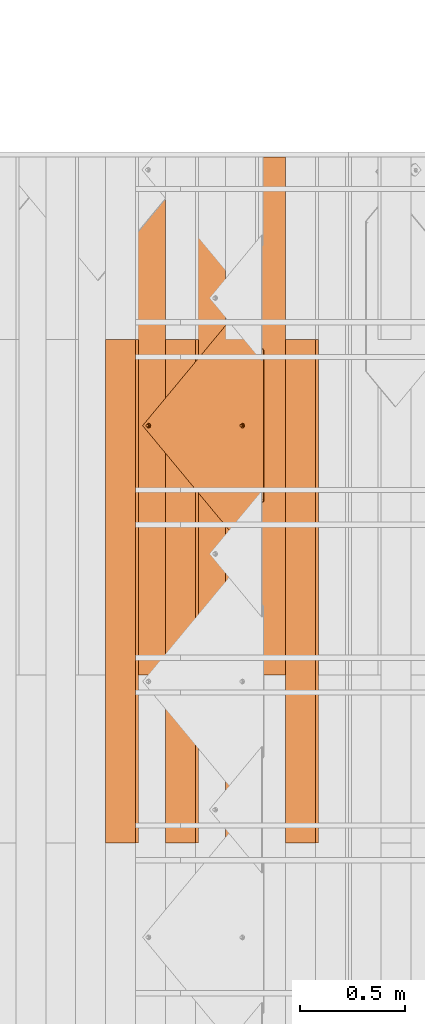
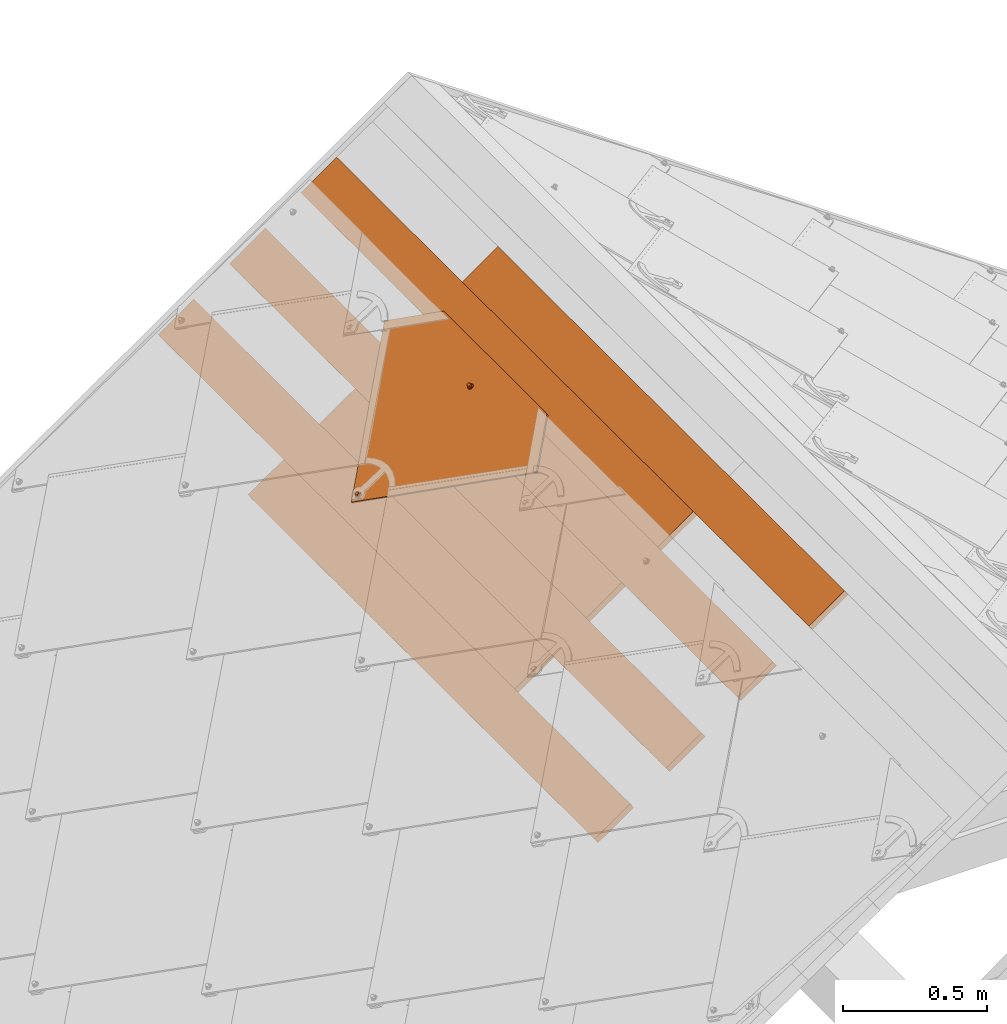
# One storey, part 64 of 133: 8 proxies, 1 element without a shape of its own.
"""IFC2X3 building model written with IfcOpenShell, lengths in millimetres."""

from ifc_helpers import new_model, entity, si_unit, converted_unit, derived_unit, direction, frame, frame_2d, origin, place, context, subcontext, project, spatial, rectangle, extrude, faceted_brep, source, transform, mapped, material, material_list, type_object, type_shapes, element, aggregate, save


model = new_model("IFC2X3")

# Units and contexts
model_context = context("Model", 3, precision=0.01, world=origin(), true_north=direction((6.12303176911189e-17, 1.0)))
body_context = subcontext(model_context, "Body", "Model", "MODEL_VIEW")
ifc_project = project(units=[si_unit("LENGTHUNIT", "METRE", prefix="MILLI"), si_unit("AREAUNIT", "SQUARE_METRE"), si_unit("VOLUMEUNIT", "CUBIC_METRE"), converted_unit("PLANEANGLEUNIT", "DEGREE", entity("IfcRatioMeasure", 0.0174532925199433), si_unit("PLANEANGLEUNIT", "RADIAN"), dimensions=[0, 0, 0, 0, 0, 0, 0]), si_unit("MASSUNIT", "GRAM", prefix="KILO"), derived_unit("MASSDENSITYUNIT", [(si_unit("MASSUNIT", "GRAM", prefix="KILO"), 1), (si_unit("LENGTHUNIT", "METRE"), -3)]), si_unit("TIMEUNIT", "SECOND"), si_unit("FREQUENCYUNIT", "HERTZ"), si_unit("THERMODYNAMICTEMPERATUREUNIT", "DEGREE_CELSIUS"), derived_unit("THERMALTRANSMITTANCEUNIT", [(si_unit("MASSUNIT", "GRAM", prefix="KILO"), 1), (si_unit("THERMODYNAMICTEMPERATUREUNIT", "KELVIN"), -1), (si_unit("TIMEUNIT", "SECOND"), -3)]), derived_unit("VOLUMETRICFLOWRATEUNIT", [(si_unit("LENGTHUNIT", "METRE"), 3), (si_unit("TIMEUNIT", "SECOND"), -1)]), si_unit("ELECTRICCURRENTUNIT", "AMPERE"), si_unit("ELECTRICVOLTAGEUNIT", "VOLT"), si_unit("POWERUNIT", "WATT"), si_unit("FORCEUNIT", "NEWTON", prefix="KILO"), si_unit("ILLUMINANCEUNIT", "LUX"), si_unit("LUMINOUSFLUXUNIT", "LUMEN"), si_unit("LUMINOUSINTENSITYUNIT", "CANDELA"), derived_unit("USERDEFINED", [(si_unit("MASSUNIT", "GRAM", prefix="KILO"), -1), (si_unit("LENGTHUNIT", "METRE"), -2), (si_unit("TIMEUNIT", "SECOND"), 3), (si_unit("LUMINOUSFLUXUNIT", "LUMEN"), 1)]), derived_unit("LINEARVELOCITYUNIT", [(si_unit("LENGTHUNIT", "METRE"), 1), (si_unit("TIMEUNIT", "SECOND"), -1)]), si_unit("PRESSUREUNIT", "PASCAL"), derived_unit("USERDEFINED", [(si_unit("LENGTHUNIT", "METRE"), -2), (si_unit("MASSUNIT", "GRAM", prefix="KILO"), 1), (si_unit("TIMEUNIT", "SECOND"), -2)])], contexts=[model_context])

# Site, building, storey
site_placement = place(None, origin())
site = spatial("IfcSite", under=ifc_project, at=site_placement, Name="Default", CompositionType="ELEMENT")
building_placement = place(site_placement, origin())
building = spatial("IfcBuilding", under=site, at=building_placement, CompositionType="ELEMENT")
storey_placement = place(building_placement, origin())
storey = spatial("IfcBuildingStorey", under=building, at=storey_placement, Name="Level 1", CompositionType="ELEMENT", Elevation=0.0)

# Assembly, proxies
assembly_placement = place(storey_placement, origin())
assembly = element("IfcElementAssembly", 1, at=assembly_placement, inside=storey, Name="Structural Framing Assembly:Roof Construction Assembly", ObjectType="Structural Framing Assembly:Roof Construction Assembly", AssemblyPlace="NOTDEFINED", PredefinedType="USERDEFINED")
ifc_material_1 = material(Name="Wood - Generic - Wood For Showcase")
building_element_proxy_type_1 = type_object("IfcBuildingElementProxyType", Name="Structural Framing 15", PredefinedType="NOTDEFINED", material=ifc_material_1)
shared_shape_1 = source(origin(), body_context, "Body", "SweptSolid", [
    extrude(rectangle(XDim=24.9999999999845, YDim=174.344679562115, at=frame_2d((-1.77635683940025e-13, -4.54747350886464e-13), x_axis=(0.0, 1.0))), frame((1128.20180147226, 1525.55080214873, 2760.23940055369), z_axis=(0.0, 1.0, 0.0), x_axis=(-0.819152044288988, 0.0, -0.573576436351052)), (0.0, 0.0, 1.0), 2399.99999999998),
])
type_shapes(building_element_proxy_type_1, [shared_shape_1])
proxy_1_placement = place(assembly_placement, frame((-142.814800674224, -870.0, -100.0)))
proxy_1 = element("IfcBuildingElementProxy", 2, at=proxy_1_placement, type_object=building_element_proxy_type_1, material=ifc_material_1, Name="Structural Framing 20:Structural Framing 15", ObjectType="Structural Framing 20:Structural Framing 15", context=body_context, shape_type="MappedRepresentation", body=[
    mapped(shared_shape_1, transform((0.0, 0.0, 0.0), scale=1.0)),
])
building_element_proxy_type_2 = type_object("IfcBuildingElementProxyType", Name="Structural Framing 15", PredefinedType="NOTDEFINED", material=ifc_material_1)
shared_shape_2 = source(origin(), body_context, "Body", "SweptSolid", [
    extrude(rectangle(XDim=24.9999999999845, YDim=174.344679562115, at=frame_2d((-1.77635683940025e-13, -4.54747350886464e-13), x_axis=(0.0, 1.0))), frame((1128.20180147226, 1455.55080214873, 2760.23940055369), z_axis=(0.0, 1.0, 0.0), x_axis=(-0.819152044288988, 0.0, -0.573576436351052)), (0.0, 0.0, 1.0), 2469.99999999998),
])
type_shapes(building_element_proxy_type_2, [shared_shape_2])
proxy_2_placement = place(assembly_placement, frame((-285.629601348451, 0.0, -200.0)))
proxy_2 = element("IfcBuildingElementProxy", 3, at=proxy_2_placement, type_object=building_element_proxy_type_2, material=ifc_material_1, Name="Structural Framing 25:Structural Framing 15", ObjectType="Structural Framing 25:Structural Framing 15", context=body_context, shape_type="MappedRepresentation", body=[
    mapped(shared_shape_2, transform((0.0, 0.0, 0.0), scale=1.0)),
])
building_element_proxy_type_3 = type_object("IfcBuildingElementProxyType", Name="Structural Framing 15", PredefinedType="NOTDEFINED", material=ifc_material_1)
shared_shape_3 = source(origin(), body_context, "Body", "SweptSolid", [
    extrude(rectangle(XDim=24.9999999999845, YDim=174.344679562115, at=frame_2d((-1.77635683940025e-13, -4.54747350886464e-13), x_axis=(0.0, 1.0))), frame((1128.20180147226, 1525.55080214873, 2760.23940055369), z_axis=(0.0, 1.0, 0.0), x_axis=(-0.819152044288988, 0.0, -0.573576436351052)), (0.0, 0.0, 1.0), 2399.99999999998),
])
type_shapes(building_element_proxy_type_3, [shared_shape_3])
proxy_3_placement = place(assembly_placement, frame((-428.444402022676, -870.0, -300.0)))
proxy_3 = element("IfcBuildingElementProxy", 4, at=proxy_3_placement, type_object=building_element_proxy_type_3, material=ifc_material_1, Name="Structural Framing 30:Structural Framing 15", ObjectType="Structural Framing 30:Structural Framing 15", context=body_context, shape_type="MappedRepresentation", body=[
    mapped(shared_shape_3, transform((0.0, 0.0, 0.0), scale=1.0)),
])
building_element_proxy_type_4 = type_object("IfcBuildingElementProxyType", Name="Structural Framing 15", PredefinedType="NOTDEFINED", material=ifc_material_1)
shared_shape_4 = source(origin(), body_context, "Body", "SweptSolid", [
    extrude(rectangle(XDim=24.9999999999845, YDim=174.344679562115, at=frame_2d((-1.77635683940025e-13, -4.54747350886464e-13), x_axis=(0.0, 1.0))), frame((1128.20180147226, 1455.55080214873, 2760.23940055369), z_axis=(0.0, 1.0, 0.0), x_axis=(-0.819152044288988, 0.0, -0.573576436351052)), (0.0, 0.0, 1.0), 2469.99999999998),
])
type_shapes(building_element_proxy_type_4, [shared_shape_4])
proxy_4_placement = place(assembly_placement, frame((-571.259202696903, 0.0, -400.0)))
proxy_4 = element("IfcBuildingElementProxy", 5, at=proxy_4_placement, type_object=building_element_proxy_type_4, material=ifc_material_1, Name="Structural Framing 35:Structural Framing 15", ObjectType="Structural Framing 35:Structural Framing 15", context=body_context, shape_type="MappedRepresentation", body=[
    mapped(shared_shape_4, transform((0.0, 0.0, 0.0), scale=1.0)),
])
building_element_proxy_type_5 = type_object("IfcBuildingElementProxyType", Name="Structural Framing 15", PredefinedType="NOTDEFINED", material=ifc_material_1)
shared_shape_5 = source(origin(), body_context, "Body", "SweptSolid", [
    extrude(rectangle(XDim=24.9999999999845, YDim=174.344679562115, at=frame_2d((-1.77635683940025e-13, -4.54747350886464e-13), x_axis=(0.0, 1.0))), frame((1128.20180147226, 1525.55080214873, 2760.23940055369), z_axis=(0.0, 1.0, 0.0), x_axis=(-0.819152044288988, 0.0, -0.573576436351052)), (0.0, 0.0, 1.0), 2399.99999999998),
])
type_shapes(building_element_proxy_type_5, [shared_shape_5])
proxy_5_placement = place(assembly_placement, frame((-714.074003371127, -870.0, -500.0)))
proxy_5 = element("IfcBuildingElementProxy", 6, at=proxy_5_placement, type_object=building_element_proxy_type_5, material=ifc_material_1, Name="Structural Framing 40:Structural Framing 15", ObjectType="Structural Framing 40:Structural Framing 15", context=body_context, shape_type="MappedRepresentation", body=[
    mapped(shared_shape_5, transform((0.0, 0.0, 0.0), scale=1.0)),
])
building_element_proxy_type_6 = type_object("IfcBuildingElementProxyType", Name="Structural Framing 15", PredefinedType="NOTDEFINED", material=ifc_material_1)
shared_shape_6 = source(origin(), body_context, "Body", "SweptSolid", [
    extrude(rectangle(XDim=24.9999999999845, YDim=174.344679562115, at=frame_2d((-1.77635683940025e-13, -4.54747350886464e-13), x_axis=(0.0, 1.0))), frame((1128.20180147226, 1455.55080214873, 2760.23940055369), z_axis=(0.0, 1.0, 0.0), x_axis=(-0.819152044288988, 0.0, -0.573576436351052)), (0.0, 0.0, 1.0), 2469.99999999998),
])
type_shapes(building_element_proxy_type_6, [shared_shape_6])
proxy_6_placement = place(assembly_placement, frame((-856.888804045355, 0.0, -600.0)))
proxy_6 = element("IfcBuildingElementProxy", 7, at=proxy_6_placement, type_object=building_element_proxy_type_6, material=ifc_material_1, Name="Structural Framing 45:Structural Framing 15", ObjectType="Structural Framing 45:Structural Framing 15", context=body_context, shape_type="MappedRepresentation", body=[
    mapped(shared_shape_6, transform((0.0, 0.0, 0.0), scale=1.0)),
])
building_element_proxy_type_7 = type_object("IfcBuildingElementProxyType", Name="Structural Framing 15", PredefinedType="NOTDEFINED", material=ifc_material_1)
shared_shape_7 = source(origin(), body_context, "Body", "SweptSolid", [
    extrude(rectangle(XDim=24.9999999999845, YDim=174.344679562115, at=frame_2d((-1.77635683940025e-13, -4.54747350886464e-13), x_axis=(0.0, 1.0))), frame((1128.20180147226, 1525.55080214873, 2760.23940055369), z_axis=(0.0, 1.0, 0.0), x_axis=(-0.819152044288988, 0.0, -0.573576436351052)), (0.0, 0.0, 1.0), 2399.99999999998),
])
type_shapes(building_element_proxy_type_7, [shared_shape_7])
proxy_7_placement = place(assembly_placement, frame((-999.703604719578, -870.0, -700.0)))
proxy_7 = element("IfcBuildingElementProxy", 8, at=proxy_7_placement, type_object=building_element_proxy_type_7, material=ifc_material_1, Name="Structural Framing 50:Structural Framing 15", ObjectType="Structural Framing 50:Structural Framing 15", context=body_context, shape_type="MappedRepresentation", body=[
    mapped(shared_shape_7, transform((0.0, 0.0, 0.0), scale=1.0)),
])
aggregate(assembly, [proxy_1, proxy_2, proxy_3, proxy_4, proxy_5, proxy_6, proxy_7])

# Proxy
ifc_material_2 = material(Name="Rubber - Sunstyle - Black")
ifc_material_3 = material(Name="Glass - Sunstyle - Tainted Black")
ifc_material_list_1 = material_list([ifc_material_2, ifc_material_3])
ifc_material_list_2 = material_list([ifc_material_2, ifc_material_3])
building_element_proxy_type_8 = type_object("IfcBuildingElementProxyType", Name="Shingle Top - Black", PredefinedType="NOTDEFINED", material=ifc_material_list_2)
shared_shape_8 = source(origin(), body_context, "Body", "Brep", [
    faceted_brep([(-518.396436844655, -96.9865733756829, 16.4476231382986), (-518.396436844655, -96.9614556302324, 17.9474128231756), (-526.881123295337, -88.4767691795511, 17.8053154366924), (-526.881123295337, -88.5018869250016, 16.3055257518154), (-376.996804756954, 61.3404039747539, 13.7960402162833), (-368.512118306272, 52.8557175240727, 13.9381376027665), (-376.996804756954, 61.3655217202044, 15.2958299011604), (-368.512118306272, 52.8808352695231, 15.4379272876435)], [[[0, 1, 2, 3]], [[0, 3, 4, 5]], [[3, 2, 6, 4]], [[2, 1, 7, 6]], [[1, 0, 5, 7]], [[5, 4, 6, 7]]]),
    faceted_brep([(0.166366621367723, -33.6374645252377, -4.47296585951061), (-5.6078362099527, -36.9707346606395, -4.4171418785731), (-5.60783620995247, -36.6024255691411, 17.5747274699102), (0.166366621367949, -33.2691554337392, 17.5189034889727), (-5.60783620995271, -43.6372749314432, -4.30549391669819), (-5.60783620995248, -43.2689658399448, 17.6863754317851), (0.166366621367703, -46.9705450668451, -4.24966993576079), (0.166366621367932, -46.6022359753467, 17.7421994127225), (5.94056945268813, -43.6372749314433, -4.30549391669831), (5.94056945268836, -43.2689658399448, 17.686375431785), (5.94056945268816, -36.9707346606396, -4.41714187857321), (5.94056945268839, -36.6024255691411, 17.5747274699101), (-8.43733754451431, -48.5381935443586, 17.774621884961), (0.16636662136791, -52.1014648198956, 17.8342978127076), (-12.0011084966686, -39.9356957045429, 17.6305514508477), (-8.43733754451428, -31.3331978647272, 17.4864810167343), (0.166366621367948, -27.7699265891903, 17.4268050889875), (8.77007078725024, -31.3331978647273, 17.4864810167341), (12.3338417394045, -39.935695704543, 17.6305514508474), (8.77007078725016, -48.5381935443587, 17.7746218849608), (-11.1578780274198, -37.6406185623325, 19.9433933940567), (-9.59010793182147, -39.8646808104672, 21.8708760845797), (0.166366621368, -32.5516055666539, 22.5035764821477), (0.166366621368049, -31.3111079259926, 21.9232298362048), (0.166366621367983, -29.1535570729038, 20.9138547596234), (0.166366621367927, -51.5454208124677, 19.1093557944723), (0.166366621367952, -50.6018442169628, 21.273060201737), (0.166366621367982, -47.1524685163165, 22.7481046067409), (0.166366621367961, -28.2829626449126, 18.7197675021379), (-6.15687907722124, -43.5022527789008, 22.6869725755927), (-6.15687907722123, -36.2018213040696, 22.5647085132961), (11.4906112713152, -42.1520387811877, 20.0189484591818), (10.0152467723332, -40.9390872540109, 21.7920079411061), (6.48961231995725, -36.2018213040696, 22.564708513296), (6.48961231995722, -43.5022527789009, 22.6869725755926), (-6.15687907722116, -43.3682243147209, 30.68986075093), (0.166366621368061, -47.0184400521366, 30.7509927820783), (0.166366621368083, -39.7180085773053, 30.6287287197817), (-6.15687907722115, -36.0677928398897, 30.5675966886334), (6.48961231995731, -43.368224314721, 30.6898607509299), (6.48961231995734, -36.0677928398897, 30.5675966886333), (0.166366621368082, -32.417577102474, 30.5064646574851), (0.166366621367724, -40.3040047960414, -4.36131789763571)], [[[0, 1, 2, 3]], [[1, 4, 5, 2]], [[4, 6, 7, 5]], [[6, 8, 9, 7]], [[8, 10, 11, 9]], [[10, 0, 3, 11]], [[12, 7, 13]], [[7, 12, 5]], [[14, 5, 12]], [[5, 14, 2]], [[15, 2, 14]], [[3, 2, 15]], [[15, 16, 3]], [[16, 17, 3]], [[11, 3, 17]], [[11, 17, 18]], [[9, 11, 18]], [[18, 19, 9]], [[7, 9, 19]], [[19, 13, 7]], [[20, 14, 12]], [[21, 22, 23, 24]], [[24, 20, 21]], [[25, 20, 12]], [[26, 27, 21]], [[15, 14, 20]], [[12, 13, 25]], [[20, 28, 15]], [[28, 20, 24]], [[21, 27, 29]], [[21, 29, 30]], [[26, 21, 20]], [[20, 25, 26]], [[15, 28, 16]], [[21, 30, 22]], [[31, 18, 17]], [[28, 31, 17]], [[32, 27, 26]], [[26, 31, 32]], [[26, 25, 31]], [[25, 19, 31]], [[17, 16, 28]], [[31, 19, 18]], [[24, 31, 28]], [[33, 34, 32]], [[23, 22, 33]], [[24, 32, 31]], [[27, 32, 34]], [[32, 23, 33]], [[19, 25, 13]], [[32, 24, 23]], [[35, 36, 37]], [[37, 38, 35]], [[36, 39, 37]], [[40, 37, 39]], [[37, 40, 41]], [[37, 41, 38]], [[42, 6, 4]], [[4, 1, 42]], [[1, 0, 42]], [[42, 8, 6]], [[0, 10, 42]], [[8, 42, 10]], [[22, 30, 38, 41]], [[30, 29, 35, 38]], [[29, 27, 36, 35]], [[27, 34, 39, 36]], [[34, 33, 40, 39]], [[33, 22, 41, 40]]]),
    faceted_brep([(0.0, -573.927138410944, 4.00636906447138), (-5.77420283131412, -577.260408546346, 4.0621930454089), (-5.77420283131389, -576.892099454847, 26.0540623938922), (0.0, -573.558829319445, 25.9982384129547), (-5.77420283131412, -583.926948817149, 4.1738410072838), (-5.7742028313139, -583.558639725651, 26.1657103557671), (0.0, -587.260218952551, 4.2296649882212), (0.0, -586.891909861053, 26.2215343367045), (5.77420283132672, -583.926948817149, 4.17384100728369), (5.77420283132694, -583.558639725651, 26.165710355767), (5.77420283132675, -577.260408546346, 4.06219304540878), (5.77420283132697, -576.892099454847, 26.0540623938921), (-8.60370416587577, -588.827867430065, 26.253956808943), (0.0, -592.391138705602, 26.3136327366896), (-12.1674751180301, -580.225369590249, 26.1098863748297), (-8.60370416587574, -571.622871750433, 25.9658159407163), (0.0, -568.059600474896, 25.9061400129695), (8.60370416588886, -571.622871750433, 25.9658159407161), (12.1674751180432, -580.225369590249, 26.1098863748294), (8.60370416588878, -588.827867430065, 26.2539568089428), (-11.3242446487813, -577.930292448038, 28.4227283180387), (-9.75647455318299, -580.154354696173, 30.3502110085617), (0.0, -572.84127945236, 30.9829114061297), (0.0, -571.600781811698, 30.4025647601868), (0.0, -569.44323095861, 29.3931896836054), (0.0, -591.835094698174, 27.5886907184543), (0.0, -590.891518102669, 29.752395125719), (0.0, -587.442142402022, 31.227439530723), (0.0, -568.572636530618, 27.1991024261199), (-6.32324569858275, -583.791926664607, 31.1663074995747), (-6.32324569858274, -576.491495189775, 31.0440434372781), (11.3242446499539, -582.441712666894, 28.4982833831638), (9.84888015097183, -581.228761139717, 30.2713428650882), (6.32324569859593, -576.491495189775, 31.044043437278), (6.32324569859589, -583.791926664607, 31.1663074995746), (-6.32324569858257, -583.657898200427, 39.169195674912), (0.0, -587.308113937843, 39.2303277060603), (0.0, -580.007682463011, 39.1080636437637), (-6.32324569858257, -576.357466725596, 39.0469316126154), (6.32324569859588, -583.657898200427, 39.1691956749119), (6.32324569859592, -576.357466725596, 39.0469316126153), (0.0, -572.70725098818, 38.9857995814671), (0.0, -580.593678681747, 4.11801702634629)], [[[0, 1, 2, 3]], [[1, 4, 5, 2]], [[4, 6, 7, 5]], [[6, 8, 9, 7]], [[8, 10, 11, 9]], [[10, 0, 3, 11]], [[12, 7, 13]], [[7, 12, 5]], [[14, 5, 12]], [[5, 14, 2]], [[15, 2, 14]], [[3, 2, 15]], [[15, 16, 3]], [[16, 17, 3]], [[11, 3, 17]], [[11, 17, 18]], [[9, 11, 18]], [[18, 19, 9]], [[7, 9, 19]], [[19, 13, 7]], [[20, 14, 12]], [[21, 22, 23, 24]], [[24, 20, 21]], [[25, 20, 12]], [[26, 27, 21]], [[15, 14, 20]], [[12, 13, 25]], [[20, 28, 15]], [[28, 20, 24]], [[21, 27, 29]], [[21, 29, 30]], [[26, 21, 20]], [[20, 25, 26]], [[15, 28, 16]], [[21, 30, 22]], [[31, 18, 17]], [[28, 31, 17]], [[32, 27, 26]], [[26, 31, 32]], [[26, 25, 31]], [[25, 19, 31]], [[17, 16, 28]], [[31, 19, 18]], [[24, 31, 28]], [[33, 34, 32]], [[23, 22, 33]], [[24, 32, 31]], [[27, 32, 34]], [[32, 23, 33]], [[19, 25, 13]], [[32, 24, 23]], [[35, 36, 37]], [[37, 38, 35]], [[36, 39, 37]], [[40, 37, 39]], [[37, 40, 41]], [[37, 41, 38]], [[42, 6, 4]], [[4, 1, 42]], [[1, 0, 42]], [[42, 8, 6]], [[0, 10, 42]], [[8, 42, 10]], [[22, 30, 38, 41]], [[30, 29, 35, 38]], [[29, 27, 36, 35]], [[27, 34, 39, 36]], [[34, 33, 40, 39]], [[33, 22, 41, 40]]]),
    faceted_brep([(518.482751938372, -96.8754983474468, 17.9260478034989), (526.967438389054, -88.3908118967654, 17.7839504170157), (526.967438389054, -88.3656941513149, 19.2837401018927), (518.482751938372, -96.8503806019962, 19.4258374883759), (349.749400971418, 71.8105397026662, 15.1009763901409), (358.234087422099, 80.2952261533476, 14.9588790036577), (358.234087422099, 80.3203438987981, 16.4586686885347), (349.749400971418, 71.8356574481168, 16.6007660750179)], [[[0, 1, 2, 3]], [[1, 0, 4, 5]], [[2, 1, 5, 6]], [[3, 2, 6, 7]], [[0, 3, 7, 4]], [[4, 7, 6, 5]]]),
    faceted_brep([(358.234087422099, 80.2952261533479, 14.9588790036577), (6.94661128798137, -35.8890860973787, 16.9046771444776), (7.74581466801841, -37.8182632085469, 16.9369860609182), (5.67526230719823, -34.2324641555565, 16.8769328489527), (8.01840805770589, -39.8885252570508, 16.9716577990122), (7.74581466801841, -41.9587873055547, 17.0063295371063), (6.94661128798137, -43.8879644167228, 17.0386384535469), (526.967438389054, -88.3908118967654, 17.7839504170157), (4.01840805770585, -32.9612934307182, 16.855643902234), (2.08896041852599, -32.1622021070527, 16.8422611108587), (0.0184080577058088, -31.8896469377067, 16.8376964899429), (-358.233442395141, 80.2952261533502, 14.9588790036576), (-2.05214430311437, -32.1622021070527, 16.8422611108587), (-3.98159194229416, -32.9612934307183, 16.855643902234), (-5.63844619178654, -34.2324641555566, 16.8769328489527), (-6.90979517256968, -35.8890860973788, 16.9046771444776), (-7.70899855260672, -37.8182632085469, 16.9369860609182), (-7.98159194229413, -39.8885252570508, 16.9716577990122), (-7.70899855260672, -41.9587873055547, 17.0063295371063), (-6.90979517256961, -43.8879644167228, 17.0386384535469), (-526.966793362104, -88.390811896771, 17.7839504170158), (-5.63844619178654, -45.544586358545, 17.0663827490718), (-5.6568542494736, -574.226981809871, 25.9204974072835), (-6.92820323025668, -575.883603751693, 25.9482417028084), (-7.72740661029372, -577.812780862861, 25.980550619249), (-8.0, -579.883042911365, 26.015222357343), (-7.72740661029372, -581.953304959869, 26.049894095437), (0.000322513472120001, -615.210165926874, 26.6068637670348), (7.72740661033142, -581.953304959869, 26.049894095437), (6.92820323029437, -583.882482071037, 26.0822030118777), (5.65685424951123, -585.53910401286, 26.1099473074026), (4.0, -586.810274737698, 26.1312362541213), (2.070552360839, -587.609366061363, 26.1446190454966), (0.0, -587.881921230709, 26.1491836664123), (-2.0705523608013, -587.609366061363, 26.1446190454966), (-4.0, -586.810274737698, 26.1312362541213), (-5.65685424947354, -585.53910401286, 26.1099473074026), (-6.92820323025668, -583.882482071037, 26.0822030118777), (-4.0, -572.955811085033, 25.8992084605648), (-3.98159194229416, -46.8157570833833, 17.0876716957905), (-2.07055236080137, -572.156719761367, 25.8858256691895), (-2.05214430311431, -47.614848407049, 17.1010544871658), (0.0, -571.884164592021, 25.8812610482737), (0.0184080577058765, -47.8874035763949, 17.1056191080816), (2.07055236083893, -572.156719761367, 25.8858256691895), (2.08896041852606, -47.6148484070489, 17.1010544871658), (4.0, -572.955811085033, 25.8992084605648), (4.01840805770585, -46.8157570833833, 17.0876716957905), (5.65685424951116, -574.226981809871, 25.9204974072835), (5.67526230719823, -45.544586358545, 17.0663827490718), (6.92820323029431, -575.883603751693, 25.9482417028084), (7.72740661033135, -577.812780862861, 25.980550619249), (8.0, -579.883042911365, 26.015222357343), (-358.233442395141, 80.1947551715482, 8.9597202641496), (-6.90979517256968, -35.9895570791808, 10.9055184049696), (-7.70899855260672, -37.9187341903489, 10.9378273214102), (-5.63844619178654, -34.3329351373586, 10.8777741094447), (-7.98159194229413, -39.9889962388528, 10.9724990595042), (-7.70899855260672, -42.0592582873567, 11.0071707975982), (-6.90979517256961, -43.9884353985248, 11.0394797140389), (-526.966793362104, -88.4912828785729, 11.7847916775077), (-3.98159194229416, -33.0617644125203, 10.856485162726), (-2.05214430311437, -32.2626730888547, 10.8431023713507), (0.0184080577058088, -31.9901179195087, 10.8385377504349), (358.234087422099, 80.1947551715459, 8.95972026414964), (2.08896041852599, -32.2626730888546, 10.8431023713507), (4.01840805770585, -33.0617644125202, 10.856485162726), (5.67526230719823, -34.3329351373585, 10.8777741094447), (6.94661128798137, -35.9895570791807, 10.9055184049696), (7.74581466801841, -37.9187341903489, 10.9378273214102), (8.01840805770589, -39.9889962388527, 10.9724990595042), (7.74581466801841, -42.0592582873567, 11.0071707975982), (6.94661128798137, -43.9884353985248, 11.0394797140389), (526.967438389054, -88.4912828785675, 11.7847916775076), (5.67526230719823, -45.645057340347, 11.0672240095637), (5.65685424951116, -574.327452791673, 19.9213386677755), (6.92820323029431, -575.984074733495, 19.9490829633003), (7.72740661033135, -577.913251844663, 19.981391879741), (8.0, -579.983513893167, 20.016063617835), (7.72740661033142, -582.053775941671, 20.050735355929), (0.000322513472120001, -615.310636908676, 20.6077050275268), (-7.72740661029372, -582.053775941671, 20.050735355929), (-6.92820323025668, -583.982953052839, 20.0830442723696), (-5.65685424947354, -585.639574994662, 20.1107885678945), (-4.0, -586.9107457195, 20.1320775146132), (-2.0705523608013, -587.709837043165, 20.1454603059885), (0.0, -587.982392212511, 20.1500249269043), (2.070552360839, -587.709837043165, 20.1454603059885), (4.0, -586.9107457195, 20.1320775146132), (5.65685424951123, -585.639574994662, 20.1107885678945), (6.92820323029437, -583.982953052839, 20.0830442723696), (4.01840805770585, -46.9162280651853, 11.0885129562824), (4.0, -573.056282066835, 19.9000497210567), (2.08896041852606, -47.7153193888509, 11.1018957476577), (2.07055236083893, -572.257190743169, 19.8866669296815), (0.0184080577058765, -47.9878745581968, 11.1064603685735), (0.0, -571.984635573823, 19.8821023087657), (-2.05214430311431, -47.7153193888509, 11.1018957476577), (-2.07055236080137, -572.257190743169, 19.8866669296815), (-3.98159194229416, -46.9162280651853, 11.0885129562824), (-4.0, -573.056282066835, 19.9000497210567), (-5.63844619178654, -45.645057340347, 11.0672240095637), (-5.6568542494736, -574.327452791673, 19.9213386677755), (-6.92820323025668, -575.984074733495, 19.9490829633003), (-7.72740661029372, -577.913251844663, 19.981391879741), (-8.0, -579.983513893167, 20.016063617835)], [[[0, 1, 2]], [[1, 0, 3]], [[0, 2, 4]], [[4, 5, 0]], [[5, 6, 0]], [[7, 0, 6]], [[8, 3, 0]], [[9, 8, 0]], [[10, 9, 0]], [[0, 11, 10]], [[12, 10, 11]], [[13, 12, 11]], [[14, 13, 11]], [[11, 15, 14]], [[15, 11, 16]], [[16, 11, 17]], [[11, 18, 17]], [[18, 11, 19]], [[11, 20, 19]], [[19, 20, 21]], [[20, 22, 21]], [[23, 22, 20]], [[24, 23, 20]], [[24, 20, 25]], [[26, 25, 20]], [[27, 26, 20]], [[7, 28, 27]], [[29, 27, 28]], [[27, 29, 30]], [[30, 31, 27]], [[31, 32, 27]], [[27, 32, 33]], [[27, 33, 34]], [[34, 35, 27]], [[27, 35, 36]], [[36, 37, 27]], [[37, 26, 27]], [[38, 21, 22]], [[38, 39, 21]], [[38, 40, 39]], [[40, 41, 39]], [[40, 42, 41]], [[41, 42, 43]], [[44, 43, 42]], [[44, 45, 43]], [[45, 44, 46]], [[46, 47, 45]], [[46, 48, 47]], [[48, 49, 47]], [[50, 7, 48]], [[48, 7, 49]], [[7, 50, 51]], [[7, 51, 52]], [[52, 28, 7]], [[7, 6, 49]], [[53, 54, 55]], [[54, 53, 56]], [[53, 55, 57]], [[58, 53, 57]], [[59, 53, 58]], [[60, 53, 59]], [[61, 56, 53]], [[62, 61, 53]], [[53, 63, 62]], [[63, 53, 64]], [[65, 63, 64]], [[66, 65, 64]], [[64, 67, 66]], [[67, 64, 68]], [[68, 64, 69]], [[70, 69, 64]], [[71, 70, 64]], [[72, 71, 64]], [[72, 64, 73]], [[72, 73, 74]], [[74, 73, 75]], [[73, 76, 75]], [[76, 73, 77]], [[77, 73, 78]], [[79, 78, 73]], [[79, 73, 80]], [[60, 81, 80]], [[80, 81, 82]], [[80, 82, 83]], [[83, 84, 80]], [[84, 85, 80]], [[85, 86, 80]], [[80, 86, 87]], [[80, 87, 88]], [[80, 88, 89]], [[79, 80, 90]], [[80, 89, 90]], [[75, 91, 74]], [[75, 92, 91]], [[92, 93, 91]], [[93, 92, 94]], [[93, 94, 95]], [[96, 95, 94]], [[97, 95, 96]], [[96, 98, 97]], [[98, 99, 97]], [[98, 100, 99]], [[100, 101, 99]], [[100, 102, 101]], [[60, 101, 102]], [[103, 60, 102]], [[103, 104, 60]], [[104, 105, 60]], [[105, 81, 60]], [[59, 101, 60]], [[27, 20, 60, 80]], [[7, 27, 80, 73]], [[0, 7, 73, 64]], [[25, 105, 104, 24]], [[24, 104, 103, 23]], [[38, 22, 102, 100]], [[102, 22, 23, 103]], [[40, 38, 100, 98]], [[40, 98, 96, 42]], [[42, 96, 94, 44]], [[44, 94, 92, 46]], [[50, 48, 75, 76]], [[75, 48, 46, 92]], [[51, 50, 76, 77]], [[51, 77, 78, 52]], [[52, 78, 79, 28]], [[28, 79, 90, 29]], [[31, 30, 89, 88]], [[29, 90, 89, 30]], [[87, 32, 31, 88]], [[32, 87, 86, 33]], [[34, 33, 86, 85]], [[34, 85, 84, 35]], [[37, 36, 83, 82]], [[35, 84, 83, 36]], [[37, 82, 81, 26]], [[26, 81, 105, 25]], [[17, 57, 55, 16]], [[16, 55, 54, 15]], [[13, 14, 56, 61]], [[56, 14, 15, 54]], [[12, 13, 61, 62]], [[12, 62, 63, 10]], [[10, 63, 65, 9]], [[9, 65, 66, 8]], [[1, 3, 67, 68]], [[67, 3, 8, 66]], [[2, 1, 68, 69]], [[2, 69, 70, 4]], [[4, 70, 71, 5]], [[5, 71, 72, 6]], [[47, 49, 74, 91]], [[74, 49, 6, 72]], [[45, 47, 91, 93]], [[45, 93, 95, 43]], [[43, 95, 97, 41]], [[41, 97, 99, 39]], [[19, 21, 101, 59]], [[101, 21, 39, 99]], [[18, 19, 59, 58]], [[18, 58, 57, 17]], [[11, 0, 64, 53]], [[20, 11, 53, 60]]]),
])
type_shapes(building_element_proxy_type_8, [shared_shape_8])
proxy_8_placement = place(storey_placement, frame((745.409615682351, 2645.1808736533, 2507.46510885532), z_axis=(-0.57357643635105, 0.0, 0.819152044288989), x_axis=(0.0, -1.0, 0.0)))
element("IfcBuildingElementProxy", 9, at=proxy_8_placement, inside=storey, type_object=building_element_proxy_type_8, material=ifc_material_list_1, Name="Roofing_Panels_SunStyle_Tile_Shingle-Top:Shingle Top - Black", ObjectType="Roofing_Panels_SunStyle_Tile_Shingle-Top:Shingle Top - Black", context=body_context, shape_type="MappedRepresentation", body=[
    mapped(shared_shape_8, transform((0.0, 0.0, 0.0), scale=1.0)),
])

save(model, "model.ifc")
